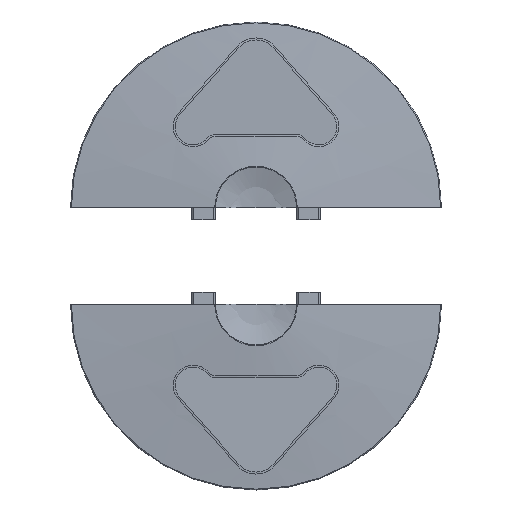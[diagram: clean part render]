
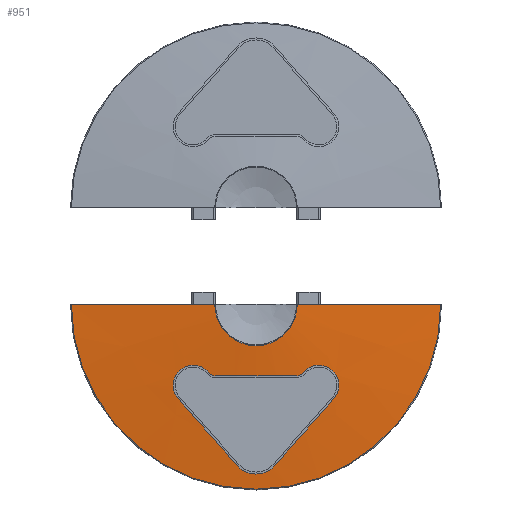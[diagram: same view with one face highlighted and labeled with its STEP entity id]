
A CAD part, top view. The second image highlights one B-rep face of the part: STEP entity #951.
In plain terms, the highlighted conical face has half-angle 84.836 degrees and reference radius 17 mm.
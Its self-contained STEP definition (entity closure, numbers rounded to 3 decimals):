
#51=B_SPLINE_CURVE_WITH_KNOTS('',3,(#1426,#1427,#1428,#1429,#1430,#1431,
#1432,#1433,#1434,#1435),.UNSPECIFIED.,.F.,.F.,(4,1,1,1,1,1,1,4),(0.,
0.003,0.007,0.01,0.013,
0.016,0.02,0.026),.UNSPECIFIED.);
#52=B_SPLINE_CURVE_WITH_KNOTS('',3,(#1438,#1439,#1440,#1441),
 .UNSPECIFIED.,.F.,.F.,(4,4),(0.008,0.045),
 .UNSPECIFIED.);
#53=B_SPLINE_CURVE_WITH_KNOTS('',3,(#1443,#1444,#1445,#1446,#1447,#1448,
#1449,#1450,#1451),.UNSPECIFIED.,.F.,.F.,(4,1,1,1,1,1,4),(0.,
0.002,0.004,0.009,0.013,
0.015,0.017),.UNSPECIFIED.);
#54=B_SPLINE_CURVE_WITH_KNOTS('',3,(#1453,#1454,#1455,#1456),
 .UNSPECIFIED.,.F.,.F.,(4,4),(0.,0.037),
 .UNSPECIFIED.);
#55=B_SPLINE_CURVE_WITH_KNOTS('',3,(#1458,#1459,#1460,#1461,#1462,#1463,
#1464,#1465,#1466,#1467,#1468),.UNSPECIFIED.,.F.,.F.,(4,1,1,1,1,1,1,1,4),
(0.,0.003,0.007,0.01,
0.013,0.016,0.02,0.023,
0.026),.UNSPECIFIED.);
#56=B_SPLINE_CURVE_WITH_KNOTS('',3,(#1470,#1471,#1472,#1473),
 .UNSPECIFIED.,.F.,.F.,(4,4),(0.,0.003),
 .UNSPECIFIED.);
#57=B_SPLINE_CURVE_WITH_KNOTS('',3,(#1475,#1476,#1477,#1478,#1479),
 .UNSPECIFIED.,.F.,.F.,(4,1,4),(0.034,0.051,0.068),
 .UNSPECIFIED.);
#58=B_SPLINE_CURVE_WITH_KNOTS('',3,(#1481,#1482,#1483,#1484),
 .UNSPECIFIED.,.F.,.F.,(4,4),(0.,0.003),
 .UNSPECIFIED.);
#68=CONICAL_SURFACE('',#1019,17.,1.481);
#76=LINE('',#1488,#154);
#77=LINE('',#1489,#155);
#154=VECTOR('',#1142,1000.);
#155=VECTOR('',#1143,1000.);
#240=ORIENTED_EDGE('',*,*,#527,.T.);
#241=ORIENTED_EDGE('',*,*,#528,.T.);
#242=ORIENTED_EDGE('',*,*,#529,.T.);
#243=ORIENTED_EDGE('',*,*,#530,.T.);
#244=ORIENTED_EDGE('',*,*,#531,.T.);
#245=ORIENTED_EDGE('',*,*,#532,.F.);
#246=ORIENTED_EDGE('',*,*,#533,.T.);
#247=ORIENTED_EDGE('',*,*,#534,.F.);
#248=ORIENTED_EDGE('',*,*,#535,.F.);
#249=ORIENTED_EDGE('',*,*,#536,.F.);
#250=ORIENTED_EDGE('',*,*,#524,.T.);
#251=ORIENTED_EDGE('',*,*,#537,.T.);
#524=EDGE_CURVE('',#668,#669,#762,.T.);
#527=EDGE_CURVE('',#670,#671,#51,.T.);
#528=EDGE_CURVE('',#671,#672,#52,.T.);
#529=EDGE_CURVE('',#672,#673,#53,.T.);
#530=EDGE_CURVE('',#673,#674,#54,.T.);
#531=EDGE_CURVE('',#674,#675,#55,.T.);
#532=EDGE_CURVE('',#676,#675,#56,.T.);
#533=EDGE_CURVE('',#676,#677,#57,.T.);
#534=EDGE_CURVE('',#670,#677,#58,.T.);
#535=EDGE_CURVE('',#678,#679,#765,.T.);
#536=EDGE_CURVE('',#668,#678,#76,.T.);
#537=EDGE_CURVE('',#669,#679,#77,.T.);
#668=VERTEX_POINT('',#1421);
#669=VERTEX_POINT('',#1422);
#670=VERTEX_POINT('',#1436);
#671=VERTEX_POINT('',#1437);
#672=VERTEX_POINT('',#1442);
#673=VERTEX_POINT('',#1452);
#674=VERTEX_POINT('',#1457);
#675=VERTEX_POINT('',#1469);
#676=VERTEX_POINT('',#1474);
#677=VERTEX_POINT('',#1480);
#678=VERTEX_POINT('',#1486);
#679=VERTEX_POINT('',#1487);
#762=CIRCLE('',#1016,17.);
#765=CIRCLE('',#1020,76.204);
#810=EDGE_LOOP('',(#240,#241,#242,#243,#244,#245,#246,#247));
#811=EDGE_LOOP('',(#248,#249,#250,#251));
#868=FACE_BOUND('',#810,.T.);
#869=FACE_BOUND('',#811,.T.);
#951=ADVANCED_FACE('',(#868,#869),#68,.T.);
#1016=AXIS2_PLACEMENT_3D('',#1420,#1132,#1133);
#1019=AXIS2_PLACEMENT_3D('',#1425,#1138,#1139);
#1020=AXIS2_PLACEMENT_3D('',#1485,#1140,#1141);
#1132=DIRECTION('',(0.,-1.,0.));
#1133=DIRECTION('',(0.,0.,-1.));
#1138=DIRECTION('',(0.,-1.,0.));
#1139=DIRECTION('',(0.,0.,-1.));
#1140=DIRECTION('',(0.,-1.,0.));
#1141=DIRECTION('',(0.,0.,-1.));
#1142=DIRECTION('',(-0.996,-0.09,0.));
#1143=DIRECTION('',(0.996,-0.09,0.));
#1420=CARTESIAN_POINT('',(0.,6.225,0.));
#1421=CARTESIAN_POINT('',(-17.,6.225,0.));
#1422=CARTESIAN_POINT('',(17.,6.225,0.));
#1425=CARTESIAN_POINT('',(0.,6.225,0.));
#1426=CARTESIAN_POINT('',(-19.435,4.668,-28.175));
#1427=CARTESIAN_POINT('',(-20.135,4.697,-27.308));
#1428=CARTESIAN_POINT('',(-21.863,4.704,-25.881));
#1429=CARTESIAN_POINT('',(-25.097,4.569,-24.904));
#1430=CARTESIAN_POINT('',(-28.443,4.324,-25.26));
#1431=CARTESIAN_POINT('',(-31.389,4.027,-26.879));
#1432=CARTESIAN_POINT('',(-33.48,3.728,-29.512));
#1433=CARTESIAN_POINT('',(-34.7,3.384,-33.846));
#1434=CARTESIAN_POINT('',(-33.587,3.235,-37.218));
#1435=CARTESIAN_POINT('',(-32.111,3.204,-38.887));
#1436=CARTESIAN_POINT('',(-19.435,4.668,-28.175));
#1437=CARTESIAN_POINT('',(-32.111,3.204,-38.887));
#1438=CARTESIAN_POINT('',(-32.111,3.204,-38.887));
#1439=CARTESIAN_POINT('',(-23.974,3.03,-48.093));
#1440=CARTESIAN_POINT('',(-15.846,2.453,-57.288));
#1441=CARTESIAN_POINT('',(-7.722,1.713,-66.478));
#1442=CARTESIAN_POINT('',(-7.722,1.713,-66.478));
#1443=CARTESIAN_POINT('',(-7.722,1.713,-66.478));
#1444=CARTESIAN_POINT('',(-7.236,1.669,-67.028));
#1445=CARTESIAN_POINT('',(-6.168,1.591,-68.005));
#1446=CARTESIAN_POINT('',(-3.629,1.475,-69.494));
#1447=CARTESIAN_POINT('',(0.,1.415,-70.269));
#1448=CARTESIAN_POINT('',(3.632,1.475,-69.493));
#1449=CARTESIAN_POINT('',(6.169,1.591,-68.004));
#1450=CARTESIAN_POINT('',(7.236,1.669,-67.028));
#1451=CARTESIAN_POINT('',(7.722,1.713,-66.478));
#1452=CARTESIAN_POINT('',(7.722,1.713,-66.478));
#1453=CARTESIAN_POINT('',(7.722,1.713,-66.478));
#1454=CARTESIAN_POINT('',(15.846,2.453,-57.288));
#1455=CARTESIAN_POINT('',(23.974,3.03,-48.093));
#1456=CARTESIAN_POINT('',(32.111,3.204,-38.887));
#1457=CARTESIAN_POINT('',(32.111,3.204,-38.887));
#1458=CARTESIAN_POINT('',(32.111,3.204,-38.887));
#1459=CARTESIAN_POINT('',(32.848,3.219,-38.053));
#1460=CARTESIAN_POINT('',(33.966,3.284,-36.114));
#1461=CARTESIAN_POINT('',(34.392,3.47,-32.768));
#1462=CARTESIAN_POINT('',(33.489,3.727,-29.531));
#1463=CARTESIAN_POINT('',(31.407,4.024,-26.895));
#1464=CARTESIAN_POINT('',(28.467,4.322,-25.267));
#1465=CARTESIAN_POINT('',(25.117,4.568,-24.902));
#1466=CARTESIAN_POINT('',(21.884,4.704,-25.87));
#1467=CARTESIAN_POINT('',(20.149,4.697,-27.295));
#1468=CARTESIAN_POINT('',(19.447,4.669,-28.159));
#1469=CARTESIAN_POINT('',(19.447,4.669,-28.159));
#1470=CARTESIAN_POINT('',(16.907,4.7,-29.355));
#1471=CARTESIAN_POINT('',(17.883,4.655,-29.368));
#1472=CARTESIAN_POINT('',(18.835,4.643,-28.921));
#1473=CARTESIAN_POINT('',(19.447,4.669,-28.159));
#1474=CARTESIAN_POINT('',(16.907,4.7,-29.355));
#1475=CARTESIAN_POINT('',(16.907,4.7,-29.355));
#1476=CARTESIAN_POINT('',(11.28,4.954,-29.355));
#1477=CARTESIAN_POINT('',(0.02,5.263,-29.355));
#1478=CARTESIAN_POINT('',(-11.271,4.954,-29.355));
#1479=CARTESIAN_POINT('',(-16.907,4.7,-29.355));
#1480=CARTESIAN_POINT('',(-16.907,4.7,-29.355));
#1481=CARTESIAN_POINT('',(-19.435,4.668,-28.175));
#1482=CARTESIAN_POINT('',(-18.822,4.644,-28.927));
#1483=CARTESIAN_POINT('',(-17.876,4.655,-29.368));
#1484=CARTESIAN_POINT('',(-16.907,4.7,-29.355));
#1485=CARTESIAN_POINT('',(0.,0.875,0.));
#1486=CARTESIAN_POINT('',(-76.204,0.875,0.));
#1487=CARTESIAN_POINT('',(76.204,0.875,0.));
#1488=CARTESIAN_POINT('',(-17.,6.225,0.));
#1489=CARTESIAN_POINT('',(17.,6.225,0.));
